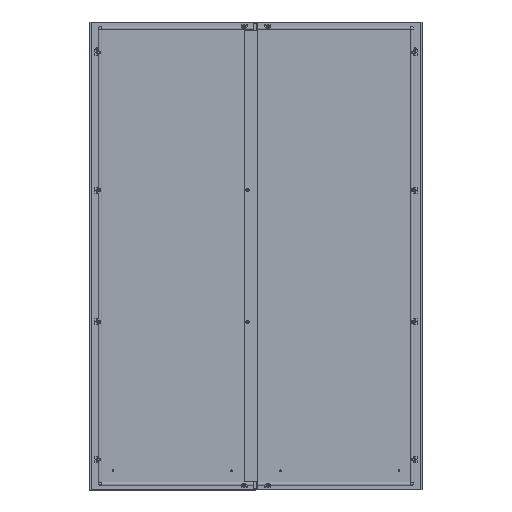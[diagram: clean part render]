
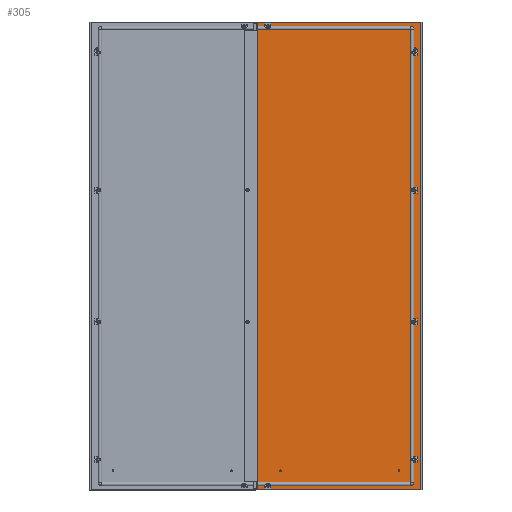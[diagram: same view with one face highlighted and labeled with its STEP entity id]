
A CAD part, top view. The second image highlights one B-rep face of the part: STEP entity #305.
In plain terms, the highlighted planar face has unit normal (0, 0, 1) as drawn and (0, 0, -1) by its records, which use the part's own axes.
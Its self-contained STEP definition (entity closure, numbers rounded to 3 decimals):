
#305 = ADVANCED_FACE('',(#306,#317,#328,#339,#350,#361,#372),#470,.T.);
#306 = FACE_BOUND('',#307,.T.);
#307 = EDGE_LOOP('',(#308));
#308 = ORIENTED_EDGE('',*,*,#309,.T.);
#309 = EDGE_CURVE('',#310,#310,#312,.T.);
#310 = VERTEX_POINT('',#311);
#311 = CARTESIAN_POINT('',(319.25,-850.,-1.5));
#312 = CIRCLE('',#313,4.75);
#313 = AXIS2_PLACEMENT_3D('',#314,#315,#316);
#314 = CARTESIAN_POINT('',(314.5,-850.,-1.5));
#315 = DIRECTION('',(0.,0.,1.));
#316 = DIRECTION('',(1.,0.,-0.));
#317 = FACE_BOUND('',#318,.T.);
#318 = EDGE_LOOP('',(#319));
#319 = ORIENTED_EDGE('',*,*,#320,.T.);
#320 = EDGE_CURVE('',#321,#321,#323,.T.);
#321 = VERTEX_POINT('',#322);
#322 = CARTESIAN_POINT('',(319.25,-275.,-1.5));
#323 = CIRCLE('',#324,4.75);
#324 = AXIS2_PLACEMENT_3D('',#325,#326,#327);
#325 = CARTESIAN_POINT('',(314.5,-275.,-1.5));
#326 = DIRECTION('',(0.,0.,1.));
#327 = DIRECTION('',(1.,0.,-0.));
#328 = FACE_BOUND('',#329,.T.);
#329 = EDGE_LOOP('',(#330));
#330 = ORIENTED_EDGE('',*,*,#331,.F.);
#331 = EDGE_CURVE('',#332,#332,#334,.T.);
#332 = VERTEX_POINT('',#333);
#333 = CARTESIAN_POINT('',(319.25,850.,-1.5));
#334 = CIRCLE('',#335,4.75);
#335 = AXIS2_PLACEMENT_3D('',#336,#337,#338);
#336 = CARTESIAN_POINT('',(314.5,850.,-1.5));
#337 = DIRECTION('',(0.,0.,-1.));
#338 = DIRECTION('',(1.,0.,0.));
#339 = FACE_BOUND('',#340,.T.);
#340 = EDGE_LOOP('',(#341));
#341 = ORIENTED_EDGE('',*,*,#342,.F.);
#342 = EDGE_CURVE('',#343,#343,#345,.T.);
#343 = VERTEX_POINT('',#344);
#344 = CARTESIAN_POINT('',(319.25,275.,-1.5));
#345 = CIRCLE('',#346,4.75);
#346 = AXIS2_PLACEMENT_3D('',#347,#348,#349);
#347 = CARTESIAN_POINT('',(314.5,275.,-1.5));
#348 = DIRECTION('',(0.,0.,-1.));
#349 = DIRECTION('',(1.,0.,0.));
#350 = FACE_BOUND('',#351,.T.);
#351 = EDGE_LOOP('',(#352));
#352 = ORIENTED_EDGE('',*,*,#353,.T.);
#353 = EDGE_CURVE('',#354,#354,#356,.T.);
#354 = VERTEX_POINT('',#355);
#355 = CARTESIAN_POINT('',(-304.75,964.5,-1.5));
#356 = CIRCLE('',#357,4.75);
#357 = AXIS2_PLACEMENT_3D('',#358,#359,#360);
#358 = CARTESIAN_POINT('',(-300.,964.5,-1.5));
#359 = DIRECTION('',(0.,0.,1.));
#360 = DIRECTION('',(-1.,0.,0.));
#361 = FACE_BOUND('',#362,.T.);
#362 = EDGE_LOOP('',(#363));
#363 = ORIENTED_EDGE('',*,*,#364,.T.);
#364 = EDGE_CURVE('',#365,#365,#367,.T.);
#365 = VERTEX_POINT('',#366);
#366 = CARTESIAN_POINT('',(-295.25,-964.5,-1.5));
#367 = CIRCLE('',#368,4.75);
#368 = AXIS2_PLACEMENT_3D('',#369,#370,#371);
#369 = CARTESIAN_POINT('',(-300.,-964.5,-1.5));
#370 = DIRECTION('',(0.,0.,1.));
#371 = DIRECTION('',(1.,0.,-0.));
#372 = FACE_BOUND('',#373,.T.);
#373 = EDGE_LOOP('',(#374,#384,#392,#400,#408,#416,#424,#432,#440,#448,
    #456,#464));
#374 = ORIENTED_EDGE('',*,*,#375,.F.);
#375 = EDGE_CURVE('',#376,#378,#380,.T.);
#376 = VERTEX_POINT('',#377);
#377 = CARTESIAN_POINT('',(-345.3,-976.,-1.5));
#378 = VERTEX_POINT('',#379);
#379 = CARTESIAN_POINT('',(345.3,-976.,-1.5));
#380 = LINE('',#381,#382);
#381 = CARTESIAN_POINT('',(0.,-976.,-1.5));
#382 = VECTOR('',#383,1.);
#383 = DIRECTION('',(1.,0.,0.));
#384 = ORIENTED_EDGE('',*,*,#385,.F.);
#385 = EDGE_CURVE('',#386,#376,#388,.T.);
#386 = VERTEX_POINT('',#387);
#387 = CARTESIAN_POINT('',(-345.3,-977.5,-1.5));
#388 = LINE('',#389,#390);
#389 = CARTESIAN_POINT('',(-345.3,0.,
    -1.5));
#390 = VECTOR('',#391,1.);
#391 = DIRECTION('',(0.,1.,0.));
#392 = ORIENTED_EDGE('',*,*,#393,.F.);
#393 = EDGE_CURVE('',#394,#386,#396,.T.);
#394 = VERTEX_POINT('',#395);
#395 = CARTESIAN_POINT('',(-345.5,-977.5,-1.5));
#396 = LINE('',#397,#398);
#397 = CARTESIAN_POINT('',(0.,-977.5,-1.5));
#398 = VECTOR('',#399,1.);
#399 = DIRECTION('',(1.,0.,0.));
#400 = ORIENTED_EDGE('',*,*,#401,.T.);
#401 = EDGE_CURVE('',#394,#402,#404,.T.);
#402 = VERTEX_POINT('',#403);
#403 = CARTESIAN_POINT('',(-345.5,977.5,-1.5));
#404 = LINE('',#405,#406);
#405 = CARTESIAN_POINT('',(-345.5,0.,-1.5));
#406 = VECTOR('',#407,1.);
#407 = DIRECTION('',(0.,1.,0.));
#408 = ORIENTED_EDGE('',*,*,#409,.F.);
#409 = EDGE_CURVE('',#410,#402,#412,.T.);
#410 = VERTEX_POINT('',#411);
#411 = CARTESIAN_POINT('',(-345.3,977.5,-1.5));
#412 = LINE('',#413,#414);
#413 = CARTESIAN_POINT('',(0.,977.5,-1.5));
#414 = VECTOR('',#415,1.);
#415 = DIRECTION('',(-1.,0.,0.));
#416 = ORIENTED_EDGE('',*,*,#417,.T.);
#417 = EDGE_CURVE('',#410,#418,#420,.T.);
#418 = VERTEX_POINT('',#419);
#419 = CARTESIAN_POINT('',(-345.3,976.,-1.5));
#420 = LINE('',#421,#422);
#421 = CARTESIAN_POINT('',(-345.3,0.,-1.5));
#422 = VECTOR('',#423,1.);
#423 = DIRECTION('',(0.,-1.,0.));
#424 = ORIENTED_EDGE('',*,*,#425,.F.);
#425 = EDGE_CURVE('',#426,#418,#428,.T.);
#426 = VERTEX_POINT('',#427);
#427 = CARTESIAN_POINT('',(345.3,976.,-1.5));
#428 = LINE('',#429,#430);
#429 = CARTESIAN_POINT('',(0.,976.,-1.5));
#430 = VECTOR('',#431,1.);
#431 = DIRECTION('',(-1.,0.,0.));
#432 = ORIENTED_EDGE('',*,*,#433,.F.);
#433 = EDGE_CURVE('',#434,#426,#436,.T.);
#434 = VERTEX_POINT('',#435);
#435 = CARTESIAN_POINT('',(345.3,977.5,-1.5));
#436 = LINE('',#437,#438);
#437 = CARTESIAN_POINT('',(345.3,0.,-1.5));
#438 = VECTOR('',#439,1.);
#439 = DIRECTION('',(0.,-1.,0.));
#440 = ORIENTED_EDGE('',*,*,#441,.F.);
#441 = EDGE_CURVE('',#442,#434,#444,.T.);
#442 = VERTEX_POINT('',#443);
#443 = CARTESIAN_POINT('',(345.5,977.5,-1.5));
#444 = LINE('',#445,#446);
#445 = CARTESIAN_POINT('',(0.,977.5,-1.5));
#446 = VECTOR('',#447,1.);
#447 = DIRECTION('',(-1.,0.,0.));
#448 = ORIENTED_EDGE('',*,*,#449,.T.);
#449 = EDGE_CURVE('',#442,#450,#452,.T.);
#450 = VERTEX_POINT('',#451);
#451 = CARTESIAN_POINT('',(345.5,-977.5,-1.5));
#452 = LINE('',#453,#454);
#453 = CARTESIAN_POINT('',(345.5,0.,-1.5));
#454 = VECTOR('',#455,1.);
#455 = DIRECTION('',(0.,-1.,0.));
#456 = ORIENTED_EDGE('',*,*,#457,.F.);
#457 = EDGE_CURVE('',#458,#450,#460,.T.);
#458 = VERTEX_POINT('',#459);
#459 = CARTESIAN_POINT('',(345.3,-977.5,-1.5));
#460 = LINE('',#461,#462);
#461 = CARTESIAN_POINT('',(0.,-977.5,-1.5));
#462 = VECTOR('',#463,1.);
#463 = DIRECTION('',(1.,0.,0.));
#464 = ORIENTED_EDGE('',*,*,#465,.T.);
#465 = EDGE_CURVE('',#458,#378,#466,.T.);
#466 = LINE('',#467,#468);
#467 = CARTESIAN_POINT('',(345.3,0.,-1.5));
#468 = VECTOR('',#469,1.);
#469 = DIRECTION('',(0.,1.,0.));
#470 = PLANE('',#471);
#471 = AXIS2_PLACEMENT_3D('',#472,#473,#474);
#472 = CARTESIAN_POINT('',(0.,0.,
    -1.5));
#473 = DIRECTION('',(0.,0.,-1.));
#474 = DIRECTION('',(-1.,0.,0.));
